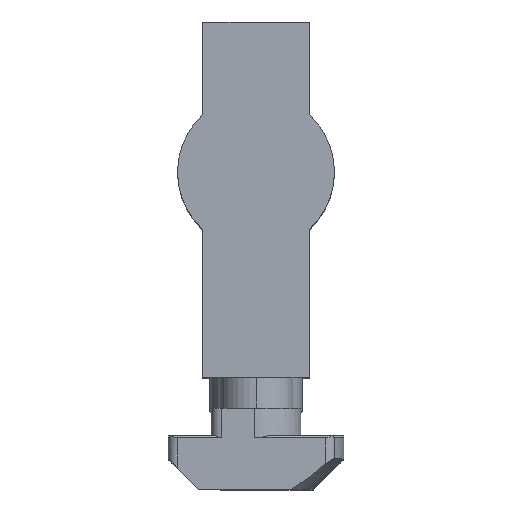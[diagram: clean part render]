
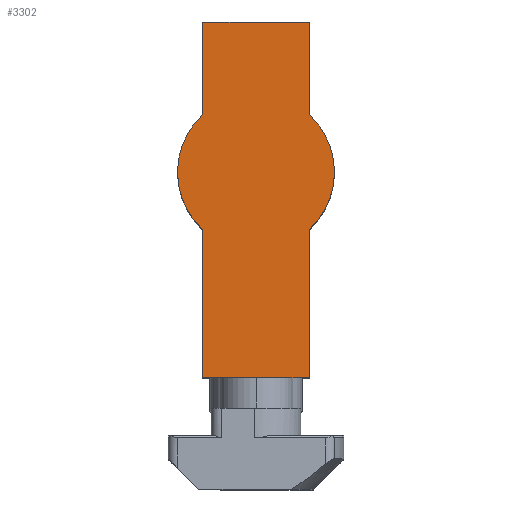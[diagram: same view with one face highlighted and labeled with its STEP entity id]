
A CAD part, top view. The second image highlights one B-rep face of the part: STEP entity #3302.
In plain terms, the highlighted planar face has unit normal (0, 0, 1).
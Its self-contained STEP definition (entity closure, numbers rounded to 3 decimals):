
#26 = LINE ( 'NONE', #3028, #1353 ) ;
#98 = EDGE_CURVE ( 'NONE', #4908, #4470, #1947, .T. ) ;
#130 = DIRECTION ( 'NONE',  ( 0., -1., 0. ) ) ;
#163 = CARTESIAN_POINT ( 'NONE',  ( 5.75, -6.26, 1.5 ) ) ;
#169 = EDGE_CURVE ( 'NONE', #4528, #1877, #4472, .T. ) ;
#208 = CARTESIAN_POINT ( 'NONE',  ( -5.75, -16.26, 1.5 ) ) ;
#223 = ORIENTED_EDGE ( 'NONE', *, *, #2561, .T. ) ;
#304 = VERTEX_POINT ( 'NONE', #2037 ) ;
#395 = DIRECTION ( 'NONE',  ( 0., 0., 1. ) ) ;
#453 = DIRECTION ( 'NONE',  ( 0., 0., 1. ) ) ;
#496 = CARTESIAN_POINT ( 'NONE',  ( 5.75, 6.26, 1.5 ) ) ;
#547 = VECTOR ( 'NONE', #130, 1000. ) ;
#572 = EDGE_CURVE ( 'NONE', #1877, #4908, #26, .T. ) ;
#592 = CARTESIAN_POINT ( 'NONE',  ( 5.75, 22.26, 1.5 ) ) ;
#664 = ORIENTED_EDGE ( 'NONE', *, *, #973, .T. ) ;
#745 = DIRECTION ( 'NONE',  ( 0., 1., 0. ) ) ;
#747 = CIRCLE ( 'NONE', #2069, 8.5 ) ;
#760 = PLANE ( 'NONE',  #1994 ) ;
#831 = DIRECTION ( 'NONE',  ( 0., 0., 1. ) ) ;
#839 = DIRECTION ( 'NONE',  ( 0., 0., 1. ) ) ;
#850 = DIRECTION ( 'NONE',  ( 1., 0., 0. ) ) ;
#884 = VERTEX_POINT ( 'NONE', #1624 ) ;
#973 = EDGE_CURVE ( 'NONE', #2778, #304, #5062, .T. ) ;
#1026 = CARTESIAN_POINT ( 'NONE',  ( -5.75, -6.26, 1.5 ) ) ;
#1092 = ORIENTED_EDGE ( 'NONE', *, *, #572, .T. ) ;
#1094 = DIRECTION ( 'NONE',  ( 0., 1., 0. ) ) ;
#1248 = DIRECTION ( 'NONE',  ( 1., 0., 0. ) ) ;
#1278 = LINE ( 'NONE', #3197, #1751 ) ;
#1353 = VECTOR ( 'NONE', #745, 1000. ) ;
#1588 = LINE ( 'NONE', #2059, #547 ) ;
#1624 = CARTESIAN_POINT ( 'NONE',  ( -8.5, 0., 1.5 ) ) ;
#1718 = EDGE_CURVE ( 'NONE', #2329, #884, #747, .T. ) ;
#1751 = VECTOR ( 'NONE', #2429, 1000. ) ;
#1877 = VERTEX_POINT ( 'NONE', #496 ) ;
#1899 = AXIS2_PLACEMENT_3D ( 'NONE', #3927, #395, #1248 ) ;
#1947 = LINE ( 'NONE', #4345, #4600 ) ;
#1994 = AXIS2_PLACEMENT_3D ( 'NONE', #3485, #831, #2027 ) ;
#2000 = ORIENTED_EDGE ( 'NONE', *, *, #2582, .T. ) ;
#2027 = DIRECTION ( 'NONE',  ( 1., 0., 0. ) ) ;
#2037 = CARTESIAN_POINT ( 'NONE',  ( 5.75, -16.26, 1.5 ) ) ;
#2059 = CARTESIAN_POINT ( 'NONE',  ( -5.75, 6.26, 1.5 ) ) ;
#2069 = AXIS2_PLACEMENT_3D ( 'NONE', #3599, #839, #2847 ) ;
#2074 = VERTEX_POINT ( 'NONE', #1026 ) ;
#2140 = VECTOR ( 'NONE', #1094, 1000. ) ;
#2329 = VERTEX_POINT ( 'NONE', #4608 ) ;
#2408 = LINE ( 'NONE', #3102, #2140 ) ;
#2429 = DIRECTION ( 'NONE',  ( 0., -1., 0. ) ) ;
#2498 = CARTESIAN_POINT ( 'NONE',  ( 0., 0., 1.5 ) ) ;
#2526 = CIRCLE ( 'NONE', #4091, 8.5 ) ;
#2561 = EDGE_CURVE ( 'NONE', #4470, #2329, #1588, .T. ) ;
#2582 = EDGE_CURVE ( 'NONE', #884, #2074, #2526, .T. ) ;
#2643 = ORIENTED_EDGE ( 'NONE', *, *, #169, .T. ) ;
#2778 = VERTEX_POINT ( 'NONE', #2980 ) ;
#2780 = CARTESIAN_POINT ( 'NONE',  ( -5.75, 22.26, 1.5 ) ) ;
#2847 = DIRECTION ( 'NONE',  ( 1., 0., 0. ) ) ;
#2878 = ORIENTED_EDGE ( 'NONE', *, *, #4279, .T. ) ;
#2980 = CARTESIAN_POINT ( 'NONE',  ( -5.75, -16.26, 1.5 ) ) ;
#3028 = CARTESIAN_POINT ( 'NONE',  ( 5.75, 6.26, 1.5 ) ) ;
#3102 = CARTESIAN_POINT ( 'NONE',  ( 5.75, -16.26, 1.5 ) ) ;
#3188 = ORIENTED_EDGE ( 'NONE', *, *, #1718, .T. ) ;
#3197 = CARTESIAN_POINT ( 'NONE',  ( -5.75, -6.26, 1.5 ) ) ;
#3302 = ADVANCED_FACE ( 'NONE', ( #3746 ), #760, .T. ) ;
#3315 = EDGE_CURVE ( 'NONE', #2074, #2778, #1278, .T. ) ;
#3420 = DIRECTION ( 'NONE',  ( 1., 0., 0. ) ) ;
#3485 = CARTESIAN_POINT ( 'NONE',  ( 0., 0., 1.5 ) ) ;
#3585 = DIRECTION ( 'NONE',  ( -1., 0., 0. ) ) ;
#3599 = CARTESIAN_POINT ( 'NONE',  ( 0., 0., 1.5 ) ) ;
#3729 = EDGE_LOOP ( 'NONE', ( #3188, #2000, #3979, #664, #2878, #2643, #1092, #3994, #223 ) ) ;
#3746 = FACE_OUTER_BOUND ( 'NONE', #3729, .T. ) ;
#3927 = CARTESIAN_POINT ( 'NONE',  ( 0., 0., 1.5 ) ) ;
#3979 = ORIENTED_EDGE ( 'NONE', *, *, #3315, .T. ) ;
#3994 = ORIENTED_EDGE ( 'NONE', *, *, #98, .T. ) ;
#4018 = VECTOR ( 'NONE', #3420, 1000. ) ;
#4091 = AXIS2_PLACEMENT_3D ( 'NONE', #2498, #453, #850 ) ;
#4279 = EDGE_CURVE ( 'NONE', #304, #4528, #2408, .T. ) ;
#4345 = CARTESIAN_POINT ( 'NONE',  ( -5.75, 22.26, 1.5 ) ) ;
#4470 = VERTEX_POINT ( 'NONE', #2780 ) ;
#4472 = CIRCLE ( 'NONE', #1899, 8.5 ) ;
#4528 = VERTEX_POINT ( 'NONE', #163 ) ;
#4600 = VECTOR ( 'NONE', #3585, 1000. ) ;
#4608 = CARTESIAN_POINT ( 'NONE',  ( -5.75, 6.26, 1.5 ) ) ;
#4908 = VERTEX_POINT ( 'NONE', #592 ) ;
#5062 = LINE ( 'NONE', #208, #4018 ) ;
